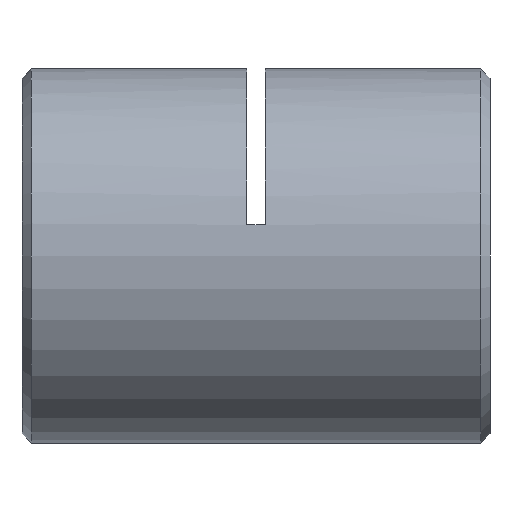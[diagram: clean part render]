
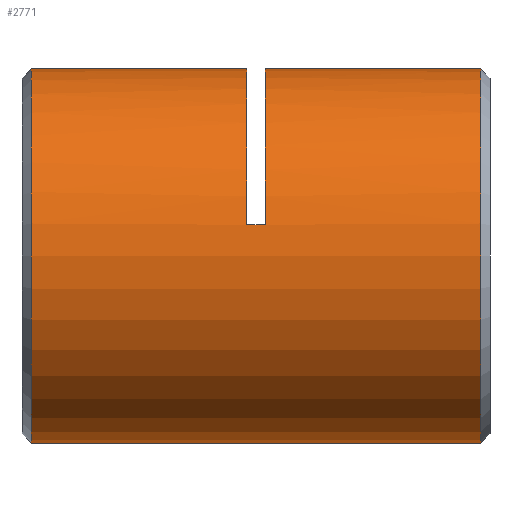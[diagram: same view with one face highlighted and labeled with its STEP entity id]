
A CAD part, left-side view. The second image highlights one B-rep face of the part: STEP entity #2771.
In plain terms, the highlighted cylindrical face has radius 10 mm (diameter 20 mm), a partial arc.
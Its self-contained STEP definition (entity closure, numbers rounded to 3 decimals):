
#5 = CARTESIAN_POINT ( 'NONE',  ( 0., 12.25, 10. ) ) ;
#143 = AXIS2_PLACEMENT_3D ( 'NONE', #2368, #1759, #1485 ) ;
#266 = CARTESIAN_POINT ( 'NONE',  ( -9.86, 13.25, 1.667 ) ) ;
#315 = VERTEX_POINT ( 'NONE', #379 ) ;
#341 = CIRCLE ( 'NONE', #143, 10. ) ;
#349 = EDGE_CURVE ( 'NONE', #731, #2986, #3026, .T. ) ;
#362 = CARTESIAN_POINT ( 'NONE',  ( 0., 24.75, 0. ) ) ;
#379 = CARTESIAN_POINT ( 'NONE',  ( 0., 0.75, -10. ) ) ;
#384 = DIRECTION ( 'NONE',  ( 0., 0., 1. ) ) ;
#454 = ORIENTED_EDGE ( 'NONE', *, *, #3793, .T. ) ;
#504 = ORIENTED_EDGE ( 'NONE', *, *, #3561, .F. ) ;
#559 = ORIENTED_EDGE ( 'NONE', *, *, #3410, .F. ) ;
#642 = CARTESIAN_POINT ( 'NONE',  ( 0., 24.75, -10. ) ) ;
#689 = VERTEX_POINT ( 'NONE', #2114 ) ;
#701 = VERTEX_POINT ( 'NONE', #642 ) ;
#723 = LINE ( 'NONE', #2420, #2419 ) ;
#731 = VERTEX_POINT ( 'NONE', #2496 ) ;
#772 = DIRECTION ( 'NONE',  ( 0., 0., 1. ) ) ;
#783 = EDGE_CURVE ( 'NONE', #315, #3212, #1142, .T. ) ;
#814 = LINE ( 'NONE', #1267, #1320 ) ;
#865 = CARTESIAN_POINT ( 'NONE',  ( 0., 0., 10. ) ) ;
#955 = DIRECTION ( 'NONE',  ( 0., 1., 0. ) ) ;
#963 = VECTOR ( 'NONE', #3314, 1000. ) ;
#998 = FACE_OUTER_BOUND ( 'NONE', #1871, .T. ) ;
#1029 = CARTESIAN_POINT ( 'NONE',  ( 0., 0., 0. ) ) ;
#1080 = CIRCLE ( 'NONE', #1750, 10. ) ;
#1119 = EDGE_CURVE ( 'NONE', #3212, #2169, #2525, .T. ) ;
#1142 = CIRCLE ( 'NONE', #2839, 10. ) ;
#1159 = ORIENTED_EDGE ( 'NONE', *, *, #3641, .T. ) ;
#1173 = ORIENTED_EDGE ( 'NONE', *, *, #2401, .T. ) ;
#1248 = DIRECTION ( 'NONE',  ( 0., -1., 0. ) ) ;
#1267 = CARTESIAN_POINT ( 'NONE',  ( -9.86, 12.75, 1.667 ) ) ;
#1320 = VECTOR ( 'NONE', #2141, 1000. ) ;
#1402 = DIRECTION ( 'NONE',  ( 0., 1., 0. ) ) ;
#1477 = AXIS2_PLACEMENT_3D ( 'NONE', #3720, #1402, #2273 ) ;
#1479 = CARTESIAN_POINT ( 'NONE',  ( 0., 24.75, 10. ) ) ;
#1485 = DIRECTION ( 'NONE',  ( 0., 0., 1. ) ) ;
#1547 = DIRECTION ( 'NONE',  ( 0., 1., 0. ) ) ;
#1563 = CARTESIAN_POINT ( 'NONE',  ( 0., 0., 10. ) ) ;
#1696 = AXIS2_PLACEMENT_3D ( 'NONE', #1029, #2540, #772 ) ;
#1750 = AXIS2_PLACEMENT_3D ( 'NONE', #362, #1248, #3582 ) ;
#1759 = DIRECTION ( 'NONE',  ( 0., 1., 0. ) ) ;
#1871 = EDGE_LOOP ( 'NONE', ( #504, #2742, #2356, #559, #1173, #454, #3025, #1159 ) ) ;
#2026 = VERTEX_POINT ( 'NONE', #266 ) ;
#2114 = CARTESIAN_POINT ( 'NONE',  ( -9.86, 12.25, 1.667 ) ) ;
#2141 = DIRECTION ( 'NONE',  ( 0., 1., 0. ) ) ;
#2169 = VERTEX_POINT ( 'NONE', #5 ) ;
#2238 = CARTESIAN_POINT ( 'NONE',  ( 0., 0.75, 10. ) ) ;
#2273 = DIRECTION ( 'NONE',  ( 0., 0., 1. ) ) ;
#2356 = ORIENTED_EDGE ( 'NONE', *, *, #1119, .T. ) ;
#2368 = CARTESIAN_POINT ( 'NONE',  ( 0., 12.25, 0. ) ) ;
#2401 = EDGE_CURVE ( 'NONE', #689, #2026, #814, .T. ) ;
#2419 = VECTOR ( 'NONE', #955, 1000. ) ;
#2420 = CARTESIAN_POINT ( 'NONE',  ( 0., 0., -10. ) ) ;
#2471 = CARTESIAN_POINT ( 'NONE',  ( 0., 0.75, 0. ) ) ;
#2496 = CARTESIAN_POINT ( 'NONE',  ( 0., 13.25, 10. ) ) ;
#2525 = LINE ( 'NONE', #865, #3260 ) ;
#2540 = DIRECTION ( 'NONE',  ( 0., 1., 0. ) ) ;
#2742 = ORIENTED_EDGE ( 'NONE', *, *, #783, .T. ) ;
#2755 = DIRECTION ( 'NONE',  ( 0., 1., 0. ) ) ;
#2771 = ADVANCED_FACE ( 'NONE', ( #998 ), #2961, .T. ) ;
#2839 = AXIS2_PLACEMENT_3D ( 'NONE', #2471, #2755, #384 ) ;
#2961 = CYLINDRICAL_SURFACE ( 'NONE', #1696, 10. ) ;
#2986 = VERTEX_POINT ( 'NONE', #1479 ) ;
#3025 = ORIENTED_EDGE ( 'NONE', *, *, #349, .T. ) ;
#3026 = LINE ( 'NONE', #1563, #963 ) ;
#3212 = VERTEX_POINT ( 'NONE', #2238 ) ;
#3260 = VECTOR ( 'NONE', #1547, 1000. ) ;
#3314 = DIRECTION ( 'NONE',  ( 0., 1., 0. ) ) ;
#3410 = EDGE_CURVE ( 'NONE', #689, #2169, #341, .T. ) ;
#3545 = CIRCLE ( 'NONE', #1477, 10. ) ;
#3561 = EDGE_CURVE ( 'NONE', #315, #701, #723, .T. ) ;
#3582 = DIRECTION ( 'NONE',  ( 0., 0., -1. ) ) ;
#3641 = EDGE_CURVE ( 'NONE', #2986, #701, #1080, .T. ) ;
#3720 = CARTESIAN_POINT ( 'NONE',  ( 0., 13.25, 0. ) ) ;
#3793 = EDGE_CURVE ( 'NONE', #2026, #731, #3545, .T. ) ;
